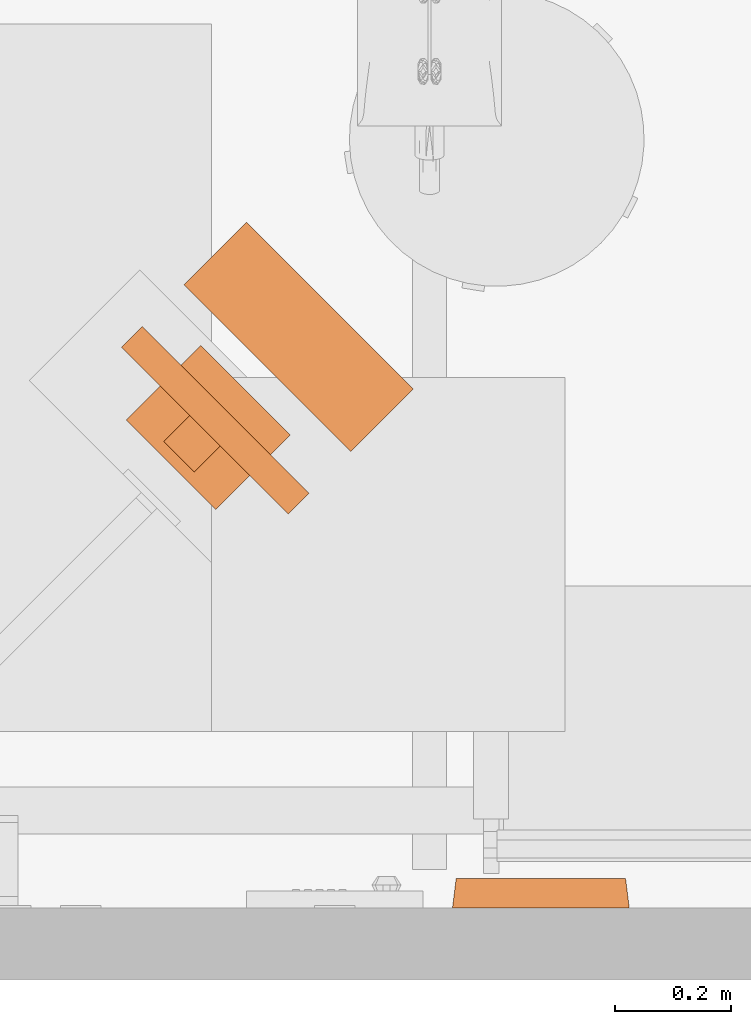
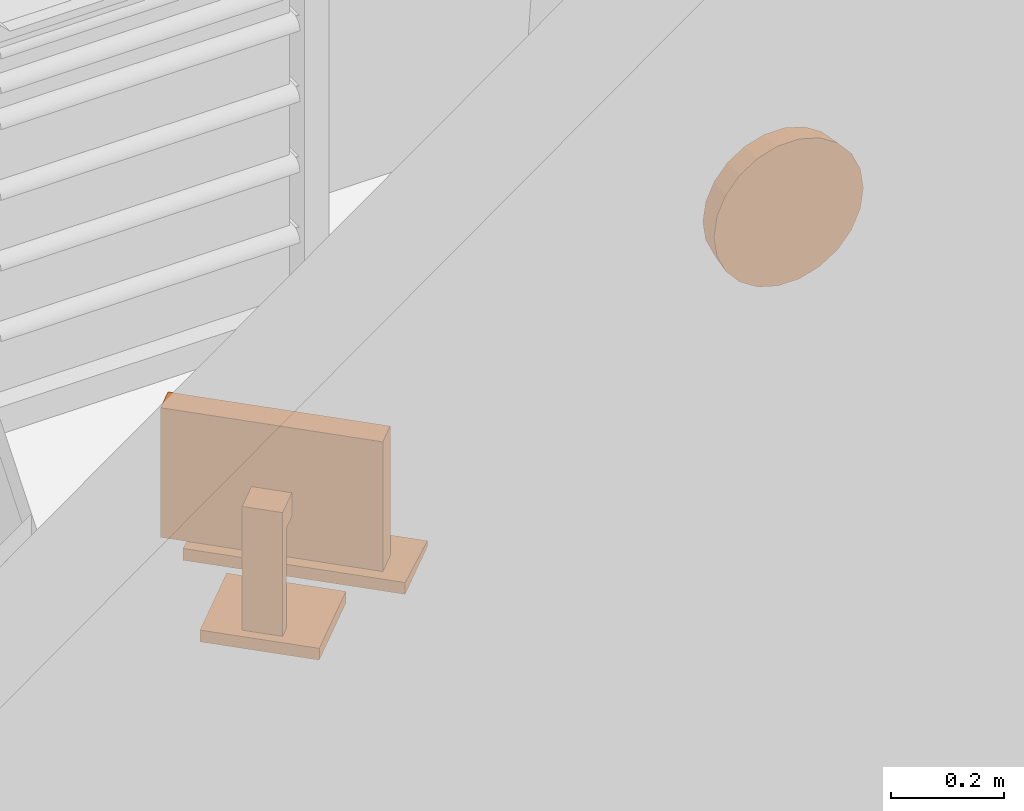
# One storey, part 8 of 8: 2 proxies.
"""IFC2X3 building model written with IfcOpenShell, lengths in feet."""

from ifc_helpers import new_model, entity, si_unit, converted_unit, derived_unit, direction, frame, origin, place, context, subcontext, project, spatial, faceted_brep, source, transform, mapped, type_object, type_shapes, element, save


model = new_model("IFC2X3")

# Units and contexts
model_context = context("Model", 3, precision=0.0001, world=origin(), true_north=direction((6.12303176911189e-17, 1.0)))
body_context = subcontext(model_context, "Body", "Model", "MODEL_VIEW")
ifc_project = project(units=[converted_unit("LENGTHUNIT", "FOOT", entity("IfcRatioMeasure", 0.3048), si_unit("LENGTHUNIT", "METRE"), dimensions=[1, 0, 0, 0, 0, 0, 0]), converted_unit("AREAUNIT", "SQUARE FOOT", entity("IfcRatioMeasure", 0.09290304), si_unit("AREAUNIT", "SQUARE_METRE"), dimensions=[2, 0, 0, 0, 0, 0, 0]), converted_unit("VOLUMEUNIT", "CUBIC FOOT", entity("IfcRatioMeasure", 0.028316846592), si_unit("VOLUMEUNIT", "CUBIC_METRE"), dimensions=[3, 0, 0, 0, 0, 0, 0]), converted_unit("PLANEANGLEUNIT", "DEGREE", entity("IfcRatioMeasure", 0.0174532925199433), si_unit("PLANEANGLEUNIT", "RADIAN"), dimensions=[0, 0, 0, 0, 0, 0, 0]), si_unit("MASSUNIT", "GRAM", prefix="KILO"), derived_unit("MASSDENSITYUNIT", [(si_unit("MASSUNIT", "GRAM", prefix="KILO"), 1), (si_unit("LENGTHUNIT", "METRE"), -3)]), si_unit("TIMEUNIT", "SECOND"), si_unit("FREQUENCYUNIT", "HERTZ"), si_unit("THERMODYNAMICTEMPERATUREUNIT", "DEGREE_CELSIUS"), derived_unit("THERMALTRANSMITTANCEUNIT", [(si_unit("MASSUNIT", "GRAM", prefix="KILO"), 1), (si_unit("THERMODYNAMICTEMPERATUREUNIT", "KELVIN"), -1), (si_unit("TIMEUNIT", "SECOND"), -3)]), derived_unit("VOLUMETRICFLOWRATEUNIT", [(si_unit("LENGTHUNIT", "METRE"), 3), (si_unit("TIMEUNIT", "SECOND"), -1)]), si_unit("ELECTRICCURRENTUNIT", "AMPERE"), si_unit("ELECTRICVOLTAGEUNIT", "VOLT"), si_unit("POWERUNIT", "WATT"), si_unit("FORCEUNIT", "NEWTON"), si_unit("ILLUMINANCEUNIT", "LUX"), si_unit("LUMINOUSFLUXUNIT", "LUMEN"), si_unit("LUMINOUSINTENSITYUNIT", "CANDELA"), derived_unit("USERDEFINED", [(si_unit("MASSUNIT", "GRAM", prefix="KILO"), -1), (si_unit("LENGTHUNIT", "METRE"), -2), (si_unit("TIMEUNIT", "SECOND"), 3), (si_unit("LUMINOUSFLUXUNIT", "LUMEN"), 1)]), derived_unit("LINEARVELOCITYUNIT", [(si_unit("LENGTHUNIT", "METRE"), 1), (si_unit("TIMEUNIT", "SECOND"), -1)]), si_unit("PRESSUREUNIT", "PASCAL"), derived_unit("USERDEFINED", [(si_unit("LENGTHUNIT", "METRE"), -2), (si_unit("MASSUNIT", "GRAM", prefix="KILO"), 1), (si_unit("TIMEUNIT", "SECOND"), -2)])], contexts=[model_context])

# Site, building, storey, space
site_placement = place(None, origin())
site = spatial("IfcSite", under=ifc_project, at=site_placement, Name="Default", CompositionType="ELEMENT")
building_placement = place(site_placement, origin())
building = spatial("IfcBuilding", under=site, at=building_placement, Name="OUTPATIENT / PACT CLINIC (Ch. 265)", CompositionType="ELEMENT")
storey_placement = place(building_placement, origin())
storey = spatial("IfcBuildingStorey", under=building, at=storey_placement, Name="DATUM", CompositionType="ELEMENT", Elevation=0.0)
space_placement = place(storey_placement, origin())
space = spatial("IfcSpace", under=storey, at=space_placement, Name="EXPA1", CompositionType="ELEMENT", InteriorOrExteriorSpace="INTERNAL")

# Proxies
building_element_proxy_type_1 = type_object("IfcBuildingElementProxyType", Name="M1801 - Computer with Flat Panel Monitor", PredefinedType="NOTDEFINED")
shared_shape_1 = source(origin(), body_context, "Body", "Brep", [
    faceted_brep([(0.666666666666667, -0.5625, 0.0), (0.666666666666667, -0.0624999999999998, 0.0), (0.666666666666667, -0.0624999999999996, 0.0833333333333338), (0.666666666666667, -0.5625, 0.0416666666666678), (-0.666666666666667, -0.5625, 0.0), (-0.666666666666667, -0.5625, 0.0416666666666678), (-0.666666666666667, -0.0624999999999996, 0.0833333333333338), (-0.666666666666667, -0.0624999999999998, 0.0)], [[[0, 1, 2, 3]], [[4, 5, 6, 7]], [[1, 0, 4, 7]], [[2, 1, 7, 6]], [[3, 2, 6, 5]], [[0, 3, 5, 4]]]),
    faceted_brep([(0.666666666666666, 0.437223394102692, 1.41666666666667), (-0.666666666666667, 0.437223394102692, 1.41666666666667), (-0.666666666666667, 0.271109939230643, 1.41666666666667), (0.666666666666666, 0.271109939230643, 1.41666666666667), (0.666666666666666, 0.437223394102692, 0.500000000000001), (0.666666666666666, 0.271109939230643, 0.500000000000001), (-0.666666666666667, 0.271109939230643, 0.500000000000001), (-0.666666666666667, 0.437223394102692, 0.500000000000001), (-0.625, 0.271109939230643, 1.375), (0.625, 0.271109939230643, 1.375), (0.625, 0.271109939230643, 0.541666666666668), (-0.625, 0.271109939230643, 0.541666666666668), (0.625, 0.286812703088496, 1.375), (-0.625, 0.286812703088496, 1.375), (0.625, 0.286812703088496, 0.541666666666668), (-0.625, 0.286812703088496, 0.541666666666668)], [[[0, 1, 2, 3]], [[4, 5, 6, 7]], [[1, 0, 4, 7]], [[2, 1, 7, 6]], [[3, 2, 6, 5], [8, 9, 10, 11]], [[0, 3, 5, 4]], [[12, 9, 8, 13]], [[14, 15, 11, 10]], [[12, 13, 15, 14]], [[13, 8, 11, 15]], [[9, 12, 14, 10]]]),
    faceted_brep([(0.358011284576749, 0.111770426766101, 0.0833333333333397), (0.358011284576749, 0.111770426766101, 0.0), (0.358011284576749, 0.708333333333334, 0.0), (0.358011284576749, 0.708333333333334, 0.0833333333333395), (-0.358011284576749, 0.708333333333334, 0.0833333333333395), (-0.358011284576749, 0.708333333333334, 0.0), (-0.358011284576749, 0.111770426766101, 0.0), (-0.358011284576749, 0.111770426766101, 0.0833333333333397), (0.12128795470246, 0.645556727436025, 0.104166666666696), (0.12128795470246, 0.645556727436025, 0.0833333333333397), (-0.12128795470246, 0.645556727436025, 0.0833333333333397), (-0.12128795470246, 0.645556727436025, 0.104166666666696), (0.12128795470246, 0.645556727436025, 0.958333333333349), (-0.12128795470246, 0.645556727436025, 0.958333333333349), (0.12128795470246, 0.437223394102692, 0.958333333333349), (-0.12128795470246, 0.437223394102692, 0.958333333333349), (0.12128795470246, 0.437223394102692, 0.791666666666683), (-0.12128795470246, 0.437223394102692, 0.791666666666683), (0.12128795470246, 0.562223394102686, 0.791666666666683), (-0.12128795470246, 0.562223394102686, 0.791666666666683), (0.12128795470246, 0.562223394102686, 0.0833333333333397), (-0.12128795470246, 0.562223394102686, 0.0833333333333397)], [[[0, 1, 2, 3]], [[4, 5, 6, 7]], [[8, 9, 10, 11]], [[12, 8, 11, 13]], [[14, 12, 13, 15]], [[16, 14, 15, 17]], [[18, 16, 17, 19]], [[20, 18, 19, 21]], [[0, 3, 4, 7], [9, 20, 21, 10]], [[1, 0, 7, 6]], [[2, 1, 6, 5]], [[3, 2, 5, 4]], [[20, 9, 8, 12, 14, 16, 18]], [[10, 21, 19, 17, 15, 13, 11]]]),
])
type_shapes(building_element_proxy_type_1, [shared_shape_1])
proxy_1_placement = place(space_placement, frame((-203.063227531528, -857.867645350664, 2.9791666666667), z_axis=(0.0, 0.0, 1.0), x_axis=(-0.707106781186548, 0.707106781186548, 0.0)))
element("IfcBuildingElementProxy", 1, at=proxy_1_placement, inside=space, type_object=building_element_proxy_type_1, Name="M1801 - Computer with Flat Panel Monitor:M1801 - Computer with Flat Panel Monitor", ObjectType="M1801 - Computer with Flat Panel Monitor", context=body_context, shape_type="MappedRepresentation", body=[
    mapped(shared_shape_1, transform((0.0, 0.0, 0.0), scale=1.0)),
])
building_element_proxy_type_2 = type_object("IfcBuildingElementProxyType", Name="F3200 - Clock, Battery, 12in Dia", PredefinedType="NOTDEFINED")
shared_shape_2 = source(origin(), body_context, "Body", "Brep", [
    faceted_brep([(0.0527623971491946, -0.166666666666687, -0.0087350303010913), (0.143371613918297, -0.166666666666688, 0.0607918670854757), (0.212898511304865, -0.16666666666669, 0.151401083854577), (0.256604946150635, -0.166666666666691, 0.256917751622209), (0.271512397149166, -0.166666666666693, 0.370151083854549), (0.256604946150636, -0.166666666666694, 0.483384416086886), (0.212898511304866, -0.166666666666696, 0.588901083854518), (0.143371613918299, -0.166666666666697, 0.67951030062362), (0.052762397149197, -0.166666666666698, 0.749037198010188), (-0.0527542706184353, -0.166666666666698, 0.792743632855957), (-0.165987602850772, -0.166666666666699, 0.807651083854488), (-0.279220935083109, -0.166666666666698, 0.792743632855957), (-0.384737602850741, -0.166666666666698, 0.749037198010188), (-0.475346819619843, -0.166666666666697, 0.679510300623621), (-0.544873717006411, -0.166666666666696, 0.588901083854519), (-0.588580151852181, -0.166666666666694, 0.483384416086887), (-0.603487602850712, -0.166666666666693, 0.37015108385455), (-0.588580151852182, -0.166666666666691, 0.256917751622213), (-0.544873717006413, -0.16666666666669, 0.151401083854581), (-0.475346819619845, -0.166666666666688, 0.0607918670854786), (-0.384737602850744, -0.166666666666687, -0.0087350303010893), (-0.279220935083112, -0.166666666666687, -0.052441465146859), (-0.165987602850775, -0.166666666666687, -0.0673489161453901), (-0.0527542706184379, -0.166666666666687, -0.0524414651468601), (0.256604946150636, -0.145833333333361, 0.483384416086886), (0.271512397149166, -0.145833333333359, 0.370151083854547), (0.256604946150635, -0.145833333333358, 0.256917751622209), (0.212898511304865, -0.145833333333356, 0.151401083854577), (0.143371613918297, -0.145833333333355, 0.0607918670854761), (0.0527623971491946, -0.145833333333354, -0.00873503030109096), (-0.0527542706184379, -0.145833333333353, -0.0524414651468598), (-0.165987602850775, -0.145833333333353, -0.0673489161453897), (-0.279220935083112, -0.145833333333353, -0.0524414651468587), (-0.384737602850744, -0.145833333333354, -0.00873503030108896), (-0.475346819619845, -0.145833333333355, 0.060791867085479), (-0.544873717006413, -0.145833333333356, 0.151401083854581), (-0.588580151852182, -0.145833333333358, 0.256917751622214), (-0.603487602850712, -0.145833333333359, 0.37015108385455), (-0.588580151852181, -0.145833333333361, 0.483384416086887), (-0.544873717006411, -0.145833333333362, 0.588901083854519), (-0.475346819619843, -0.145833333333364, 0.679510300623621), (-0.384737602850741, -0.145833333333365, 0.749037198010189), (-0.279220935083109, -0.145833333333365, 0.792743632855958), (-0.165987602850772, -0.145833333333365, 0.807651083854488), (-0.0527542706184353, -0.145833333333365, 0.792743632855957), (0.052762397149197, -0.145833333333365, 0.749037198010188), (0.143371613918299, -0.145833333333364, 0.67951030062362), (0.212898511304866, -0.145833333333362, 0.588901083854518)], [[[0, 1, 2, 3, 4, 5, 6, 7, 8, 9, 10, 11, 12, 13, 14, 15, 16, 17, 18, 19, 20, 21, 22, 23]], [[24, 25, 26, 27, 28, 29, 30, 31, 32, 33, 34, 35, 36, 37, 38, 39, 40, 41, 42, 43, 44, 45, 46, 47]], [[36, 17, 16, 37]], [[35, 18, 17, 36]], [[20, 19, 34, 33]], [[35, 34, 19, 18]], [[21, 20, 33, 32]], [[22, 21, 32, 31]], [[30, 23, 22, 31]], [[29, 0, 23, 30]], [[2, 1, 28, 27]], [[29, 28, 1, 0]], [[3, 2, 27, 26]], [[4, 3, 26, 25]], [[24, 5, 4, 25]], [[47, 6, 5, 24]], [[8, 7, 46, 45]], [[47, 46, 7, 6]], [[9, 8, 45, 44]], [[10, 9, 44, 43]], [[11, 10, 43, 42]], [[12, 11, 42, 41]], [[14, 39, 38, 15]], [[15, 38, 37, 16]], [[12, 41, 40, 13]], [[40, 39, 14, 13]]]),
    faceted_brep([(-0.493417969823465, 0.0, -0.00772370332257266), (-0.586614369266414, 0.0, 0.0998306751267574), (-0.165987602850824, 0.0, 0.370151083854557), (-0.373695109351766, 0.0, -0.0846649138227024), (-0.645734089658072, 0.0, 0.229284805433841), (-0.665987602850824, 0.0, 0.370151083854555), (-0.645734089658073, 0.0, 0.51101736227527), (-0.586614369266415, 0.0, 0.640471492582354), (-0.493417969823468, 0.0, 0.748025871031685), (-0.373695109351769, 0.0, 0.824967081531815), (-0.237145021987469, 0.0, 0.865061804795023), (-0.0948301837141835, 0.0, 0.865061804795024), (0.0417199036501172, 0.0, 0.824967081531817), (0.161442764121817, 0.0, 0.748025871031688), (0.254639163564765, 0.0, 0.640471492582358), (0.313758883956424, 0.0, 0.511017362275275), (0.334012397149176, 0.0, 0.370151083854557), (0.313758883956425, 0.0, 0.229284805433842), (0.254639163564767, 0.0, 0.0998306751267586), (0.161442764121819, 0.0, -0.00772370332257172), (0.0417199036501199, 0.0, -0.0846649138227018), (-0.0948301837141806, 0.0, -0.124759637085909), (-0.237145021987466, 0.0, -0.124759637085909), (-0.165987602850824, -0.145833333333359, 0.370151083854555), (-0.534036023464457, -0.145833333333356, 0.133620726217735), (-0.452489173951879, -0.145833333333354, 0.0395106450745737), (-0.585765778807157, -0.145833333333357, 0.246893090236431), (-0.347731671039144, -0.145833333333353, -0.0278129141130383), (-0.228250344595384, -0.145833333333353, -0.0628957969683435), (-0.603487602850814, -0.145833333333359, 0.370151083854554), (-0.103724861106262, -0.145833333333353, -0.0628957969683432), (0.0157564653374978, -0.145833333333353, -0.0278129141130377), (0.120513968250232, -0.145833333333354, 0.0395106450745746), (0.20206081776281, -0.145833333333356, 0.133620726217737), (0.253790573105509, -0.145833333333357, 0.246893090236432), (0.271512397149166, -0.145833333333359, 0.370151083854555), (-0.585765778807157, -0.145833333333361, 0.493409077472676), (-0.534036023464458, -0.145833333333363, 0.606681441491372), (-0.452489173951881, -0.145833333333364, 0.700791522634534), (-0.347731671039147, -0.145833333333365, 0.768115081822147), (-0.228250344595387, -0.145833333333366, 0.803197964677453), (0.253790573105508, -0.145833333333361, 0.49340907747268), (0.202060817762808, -0.145833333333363, 0.606681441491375), (0.12051396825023, -0.145833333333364, 0.700791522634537), (0.0157564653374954, -0.145833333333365, 0.768115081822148), (-0.103724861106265, -0.145833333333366, 0.803197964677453), (0.253790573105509, -0.166666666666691, 0.246893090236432), (0.271512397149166, -0.166666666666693, 0.370151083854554), (0.20206081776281, -0.166666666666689, 0.133620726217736), (-0.103724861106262, -0.166666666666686, -0.0628957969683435), (0.0157564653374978, -0.166666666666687, -0.0278129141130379), (0.120513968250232, -0.166666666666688, 0.0395106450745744), (-0.228250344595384, -0.166666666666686, -0.0628957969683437), (-0.452489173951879, -0.166666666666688, 0.0395106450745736), (-0.347731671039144, -0.166666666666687, -0.0278129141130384), (-0.603487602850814, -0.166666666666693, 0.370151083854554), (-0.585765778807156, -0.166666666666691, 0.246893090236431), (-0.534036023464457, -0.166666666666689, 0.133620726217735), (-0.585765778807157, -0.166666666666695, 0.493409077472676), (-0.534036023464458, -0.166666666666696, 0.606681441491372), (-0.347731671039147, -0.166666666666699, 0.768115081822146), (-0.452489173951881, -0.166666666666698, 0.700791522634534), (-0.228250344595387, -0.166666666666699, 0.803197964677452), (-0.103724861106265, -0.166666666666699, 0.803197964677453), (0.0157564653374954, -0.166666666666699, 0.768115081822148), (0.12051396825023, -0.166666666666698, 0.700791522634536), (0.253790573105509, -0.166666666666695, 0.493409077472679), (0.202060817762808, -0.166666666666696, 0.606681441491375), (-0.62574465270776, -0.166666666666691, 0.235154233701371), (-0.64515426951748, -0.166666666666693, 0.370151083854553), (-0.569088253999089, -0.166666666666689, 0.111094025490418), (-0.479775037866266, -0.166666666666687, 0.00802107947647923), (-0.365040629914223, -0.166666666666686, -0.0657142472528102), (-0.234180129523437, -0.166666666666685, -0.104138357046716), (-0.0977950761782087, -0.166666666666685, -0.104138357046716), (0.0330654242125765, -0.166666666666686, -0.0657142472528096), (0.147799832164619, -0.166666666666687, 0.00802107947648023), (0.237113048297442, -0.166666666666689, 0.11109402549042), (0.293769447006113, -0.166666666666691, 0.235154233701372), (0.313179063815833, -0.166666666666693, 0.370151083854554), (0.293769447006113, -0.166666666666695, 0.50514793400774), (0.237113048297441, -0.166666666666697, 0.629208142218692), (0.147799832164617, -0.166666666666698, 0.732281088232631), (0.0330654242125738, -0.1666666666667, 0.80601641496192), (-0.0977950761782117, -0.1666666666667, 0.844440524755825), (-0.23418012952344, -0.1666666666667, 0.844440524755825), (-0.365040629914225, -0.1666666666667, 0.806016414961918), (-0.479775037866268, -0.166666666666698, 0.732281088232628), (-0.569088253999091, -0.166666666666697, 0.629208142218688), (-0.625744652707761, -0.166666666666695, 0.505147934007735)], [[[0, 1, 2]], [[0, 2, 3]], [[4, 2, 1]], [[2, 4, 5]], [[5, 6, 2]], [[2, 6, 7]], [[2, 7, 8]], [[2, 8, 9]], [[9, 10, 2]], [[11, 2, 10]], [[2, 11, 12]], [[2, 12, 13]], [[14, 2, 13]], [[2, 14, 15]], [[15, 16, 2]], [[2, 16, 17]], [[2, 17, 18]], [[18, 19, 2]], [[19, 20, 2]], [[21, 2, 20]], [[2, 21, 22]], [[22, 3, 2]], [[23, 24, 25]], [[24, 23, 26]], [[27, 23, 25]], [[23, 27, 28]], [[29, 26, 23]], [[28, 30, 23]], [[31, 23, 30]], [[23, 31, 32]], [[23, 32, 33]], [[33, 34, 23]], [[34, 35, 23]], [[23, 36, 29]], [[37, 36, 23]], [[38, 37, 23]], [[39, 38, 23]], [[23, 40, 39]], [[23, 35, 41]], [[41, 42, 23]], [[43, 23, 42]], [[43, 44, 23]], [[44, 45, 23]], [[40, 23, 45]], [[46, 47, 35, 34]], [[46, 34, 33, 48]], [[31, 30, 49, 50]], [[32, 31, 50, 51]], [[51, 48, 33, 32]], [[30, 28, 52, 49]], [[27, 25, 53, 54]], [[28, 27, 54, 52]], [[29, 55, 56, 26]], [[26, 56, 57, 24]], [[24, 57, 53, 25]], [[55, 29, 36, 58]], [[58, 36, 37, 59]], [[60, 61, 38, 39]], [[59, 37, 38, 61]], [[39, 40, 62, 60]], [[40, 45, 63, 62]], [[64, 63, 45, 44]], [[64, 44, 43, 65]], [[41, 35, 47, 66]], [[42, 41, 66, 67]], [[67, 65, 43, 42]], [[68, 55, 69]], [[56, 55, 68]], [[68, 70, 56]], [[70, 57, 56]], [[71, 57, 70]], [[57, 71, 53]], [[72, 53, 71]], [[54, 53, 72]], [[72, 73, 54]], [[73, 52, 54]], [[49, 52, 73]], [[73, 74, 49]], [[74, 50, 49]], [[75, 50, 74]], [[50, 75, 51]], [[76, 51, 75]], [[48, 51, 76]], [[76, 77, 48]], [[77, 46, 48]], [[78, 46, 77]], [[46, 78, 47]], [[78, 79, 47]], [[79, 80, 47]], [[66, 47, 80]], [[80, 81, 66]], [[66, 81, 67]], [[82, 67, 81]], [[67, 82, 65]], [[65, 82, 83]], [[64, 65, 83]], [[83, 84, 64]], [[64, 84, 63]], [[85, 63, 84]], [[63, 85, 62]], [[62, 85, 60]], [[86, 60, 85]], [[60, 86, 61]], [[61, 86, 87]], [[59, 61, 87]], [[87, 88, 59]], [[59, 88, 58]], [[89, 58, 88]], [[55, 89, 69]], [[58, 89, 55]], [[78, 17, 16, 79]], [[77, 18, 17, 78]], [[19, 76, 75, 20]], [[77, 76, 19, 18]], [[20, 75, 74, 21]], [[74, 73, 22, 21]], [[22, 73, 72, 3]], [[0, 3, 72, 71]], [[4, 1, 70, 68]], [[70, 1, 0, 71]], [[5, 4, 68, 69]], [[89, 6, 5, 69]], [[88, 7, 6, 89]], [[8, 87, 86, 9]], [[88, 87, 8, 7]], [[9, 86, 85, 10]], [[85, 84, 11, 10]], [[83, 12, 11, 84]], [[82, 13, 12, 83]], [[14, 81, 80, 15]], [[82, 81, 14, 13]], [[15, 80, 79, 16]]]),
])
type_shapes(building_element_proxy_type_2, [shared_shape_2])
proxy_2_placement = place(space_placement, frame((-201.638013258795, -860.876806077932, 6.50000000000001), z_axis=(0.0, 0.0, 1.0), x_axis=(-1.0, 0.0, 0.0)))
element("IfcBuildingElementProxy", 2, at=proxy_2_placement, inside=space, type_object=building_element_proxy_type_2, Name="F3200 - Clock, Battery, 12in Dia:F3200 - Clock, Battery, 12in Dia", ObjectType="F3200 - Clock, Battery, 12in Dia", context=body_context, shape_type="MappedRepresentation", body=[
    mapped(shared_shape_2, transform((0.0, 0.0, 0.0), scale=1.0)),
])

save(model, "model.ifc")
